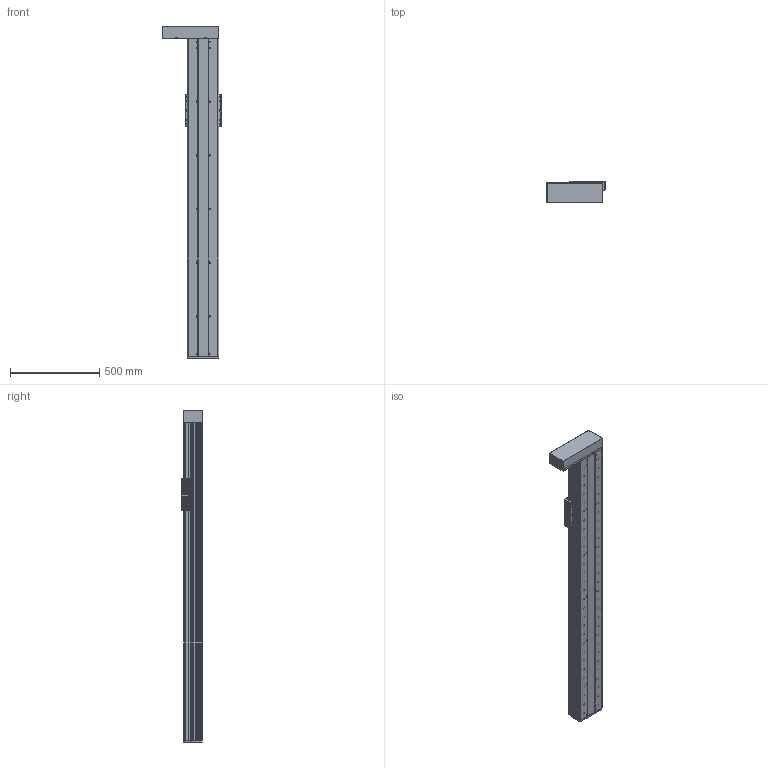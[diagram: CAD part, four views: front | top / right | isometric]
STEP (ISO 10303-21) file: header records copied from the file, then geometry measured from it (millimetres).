
FILE_DESCRIPTION (( 'STEP AP214' ), '1' );
FILE_NAME ('CF175B-C-1500-FWL.STEP', '2020-01-02T01:10:41', ( '微软用户' ), ( '微软中国' ), 'SwSTEP 2.0', 'SolidWorks 2016', '' );
FILE_SCHEMA (( 'AUTOMOTIVE_DESIGN' ));
Length unit declared in the file: millimetre
Products named in the file (12): 肮祭謫欶; 175B殏俔萇儂啣; 175-2同步带从动端固定座; CF175-2賑雄啣; EGR20絳寢-1500; 175B臏倰第-1500; CF175B-1500; CF175-2蹟譫釱; 175-2盓傅釱; 175-2耜啣; CF-EGH20CA賑輸; CF175B-C-1500-FWL
Assembly tree (15 placements, depth 2):
  CF175B-C-1500-FWL
    CF-EGH20CA賑輸  x4
    175-2耜啣
    175-2盓傅釱
    CF175-2蹟譫釱
    CF175B-1500
    175B臏倰第-1500
    EGR20絳寢-1500  x2
    CF175-2賑雄啣
    175-2同步带从动端固定座
    175B殏俔萇儂啣
    肮祭謫欶
Bounding box: 324.5 x 118.3 x 1855 mm (x, y, z)
Volume: 12018121.5 mm3; surface area: 3628208.3 mm2
Topology: 21 solids, 21 shells, 1612 faces, 4121 edges, 2733 vertices
Faces by surface type: cylinder 877, plane 725, cone 8, bspline 2
Entity records: 39876 total; most frequent: DIRECTION 6889, CARTESIAN_POINT 6566, ORIENTED_EDGE 6168, EDGE_CURVE 3084, AXIS2_PLACEMENT_3D 2612, VERTEX_POINT 2049, LINE 1665, VECTOR 1665
